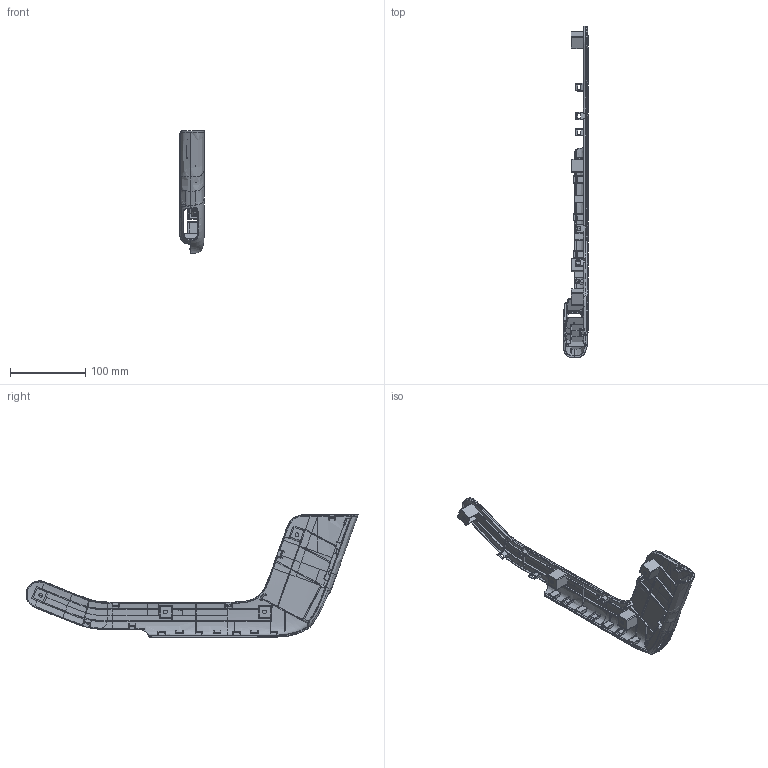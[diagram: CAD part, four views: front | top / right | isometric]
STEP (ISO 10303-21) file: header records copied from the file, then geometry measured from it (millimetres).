
FILE_DESCRIPTION((''),'2;1');
FILE_NAME('YC_SJ_ZS001345_01','2026-03-20T10:53:09',('casson.cai'),(''),'CREO PARAMETRIC BY PTC INC, 2022164','CREO PARAMETRIC BY PTC INC, 2022164','');
FILE_SCHEMA(('CONFIG_CONTROL_DESIGN'));
Products named in the file (1): YC_SJ_ZS001345_01
Bounding box: 32.3 x 442.32 x 163.62 mm (x, y, z)
Volume: 99264.1 mm3; surface area: 97307.4 mm2
Topology: 1 solids, 1 shells, 973 faces, 2727 edges, 1754 vertices
Faces by surface type: plane 525, bspline 213, extrusion 109, cylinder 101, cone 18, revolution 5, torus 2
Entity records: 100826 total; most frequent: CARTESIAN_POINT 78287, ORIENTED_EDGE 5452, DIRECTION 3315, EDGE_CURVE 2726, VERTEX_POINT 1755, VECTOR 1702, LINE 1593, B_SPLINE_CURVE_WITH_KNOTS 1089
